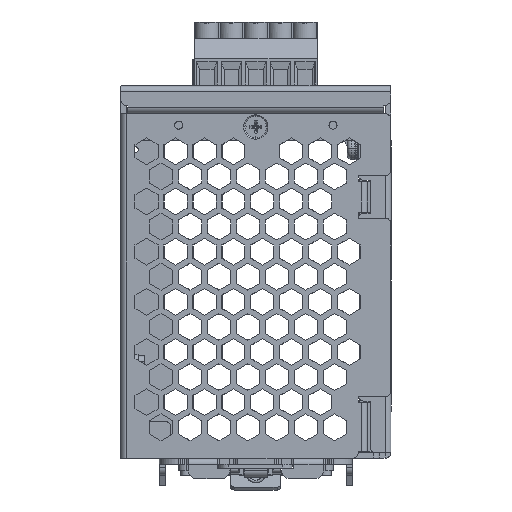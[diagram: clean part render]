
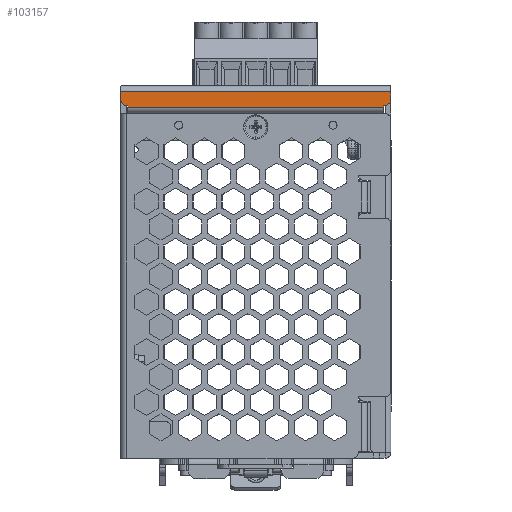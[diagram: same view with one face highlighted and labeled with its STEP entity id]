
A CAD part, front view. The second image highlights one B-rep face of the part: STEP entity #103157.
In plain terms, the highlighted planar face has unit normal (0, -1, 0).
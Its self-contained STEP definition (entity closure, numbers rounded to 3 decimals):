
#100638=DIRECTION('',(0.,0.,-1.));
#100639=VECTOR('',#100638,1.9);
#100640=CARTESIAN_POINT('',(-35.,-1.5,0.));
#100641=LINE('',#100640,#100639);
#100645=CARTESIAN_POINT('',(33.4,-1.5,-1.9));
#100646=DIRECTION('',(0.,-1.,0.));
#100647=DIRECTION('',(0.,0.,-1.));
#100648=AXIS2_PLACEMENT_3D('',#100645,#100646,#100647);
#100653=DIRECTION('',(-1.,0.,0.));
#100654=VECTOR('',#100653,0.2);
#100655=CARTESIAN_POINT('',(33.4,-1.5,-3.5));
#100656=LINE('',#100655,#100654);
#100660=DIRECTION('',(0.,0.,1.));
#100661=VECTOR('',#100660,0.5);
#100662=CARTESIAN_POINT('',(33.2,-1.5,-4.));
#100663=LINE('',#100662,#100661);
#100667=DIRECTION('',(-1.,0.,0.));
#100668=VECTOR('',#100667,66.4);
#100669=CARTESIAN_POINT('',(33.2,-1.5,-4.));
#100670=LINE('',#100669,#100668);
#100674=DIRECTION('',(0.,0.,1.));
#100675=VECTOR('',#100674,0.5);
#100676=CARTESIAN_POINT('',(-33.2,-1.5,-4.));
#100677=LINE('',#100676,#100675);
#100681=DIRECTION('',(1.,0.,0.));
#100682=VECTOR('',#100681,0.2);
#100683=CARTESIAN_POINT('',(-33.4,-1.5,-3.5));
#100684=LINE('',#100683,#100682);
#100688=CARTESIAN_POINT('',(-33.4,-1.5,-1.9));
#100689=DIRECTION('',(0.,-1.,0.));
#100690=DIRECTION('',(-1.,0.,0.));
#100691=AXIS2_PLACEMENT_3D('',#100688,#100689,#100690);
#100696=DIRECTION('',(-1.,0.,0.));
#100697=VECTOR('',#100696,70.);
#100698=CARTESIAN_POINT('',(35.,-1.5,0.));
#100699=LINE('',#100698,#100697);
#100761=DIRECTION('',(0.,0.,-1.));
#100762=VECTOR('',#100761,1.9);
#100763=CARTESIAN_POINT('',(35.,-1.5,0.));
#100764=LINE('',#100763,#100762);
#102702=CARTESIAN_POINT('',(-33.2,-1.5,-3.5));
#102704=VERTEX_POINT('',#102702);
#102710=CARTESIAN_POINT('',(33.2,-1.5,-3.5));
#102712=VERTEX_POINT('',#102710);
#102866=CARTESIAN_POINT('',(-33.2,-1.5,-4.));
#102868=VERTEX_POINT('',#102866);
#102869=CARTESIAN_POINT('',(33.2,-1.5,-4.));
#102870=VERTEX_POINT('',#102869);
#102873=CARTESIAN_POINT('',(-35.,-1.5,0.));
#102875=VERTEX_POINT('',#102873);
#102879=CARTESIAN_POINT('',(35.,-1.5,0.));
#102880=VERTEX_POINT('',#102879);
#102941=CARTESIAN_POINT('',(33.4,-1.5,-3.5));
#102942=VERTEX_POINT('',#102941);
#102943=CARTESIAN_POINT('',(35.,-1.5,-1.9));
#102944=VERTEX_POINT('',#102943);
#102953=CARTESIAN_POINT('',(-35.,-1.5,-1.9));
#102954=CARTESIAN_POINT('',(-33.4,-1.5,-3.5));
#102955=VERTEX_POINT('',#102953);
#102956=VERTEX_POINT('',#102954);
#103132=CARTESIAN_POINT('',(-35.,-1.5,1.5));
#103133=DIRECTION('',(0.,-1.,0.));
#103134=DIRECTION('',(0.,0.,-1.));
#103135=AXIS2_PLACEMENT_3D('',#103132,#103133,#103134);
#103136=PLANE('',#103135);
#103138=ORIENTED_EDGE('',*,*,#103137,.F.);
#103140=ORIENTED_EDGE('',*,*,#103139,.T.);
#103142=ORIENTED_EDGE('',*,*,#103141,.F.);
#103144=ORIENTED_EDGE('',*,*,#103143,.T.);
#103146=ORIENTED_EDGE('',*,*,#103145,.T.);
#103148=ORIENTED_EDGE('',*,*,#103147,.F.);
#103149=ORIENTED_EDGE('',*,*,#103122,.F.);
#103150=ORIENTED_EDGE('',*,*,#103112,.F.);
#103152=ORIENTED_EDGE('',*,*,#103151,.F.);
#103154=ORIENTED_EDGE('',*,*,#103153,.T.);
#103155=EDGE_LOOP('',(#103138,#103140,#103142,#103144,#103146,#103148,#103149,
#103150,#103152,#103154));
#103156=FACE_OUTER_BOUND('',#103155,.F.);
#100649=CIRCLE('',#100648,1.6);
#100692=CIRCLE('',#100691,1.6);
#103112=EDGE_CURVE('',#102875,#102955,#100641,.T.);
#103122=EDGE_CURVE('',#102955,#102956,#100692,.T.);
#103137=EDGE_CURVE('',#102942,#102944,#100649,.T.);
#103139=EDGE_CURVE('',#102942,#102712,#100656,.T.);
#103141=EDGE_CURVE('',#102870,#102712,#100663,.T.);
#103143=EDGE_CURVE('',#102870,#102868,#100670,.T.);
#103145=EDGE_CURVE('',#102868,#102704,#100677,.T.);
#103147=EDGE_CURVE('',#102956,#102704,#100684,.T.);
#103151=EDGE_CURVE('',#102880,#102875,#100699,.T.);
#103153=EDGE_CURVE('',#102880,#102944,#100764,.T.);
#103157=ADVANCED_FACE('',(#103156),#103136,.T.);
